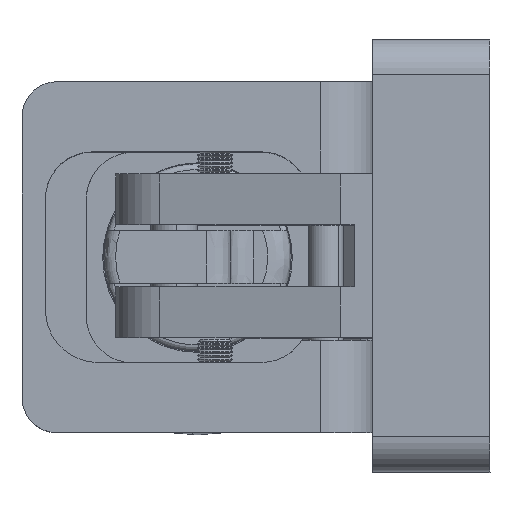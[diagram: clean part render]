
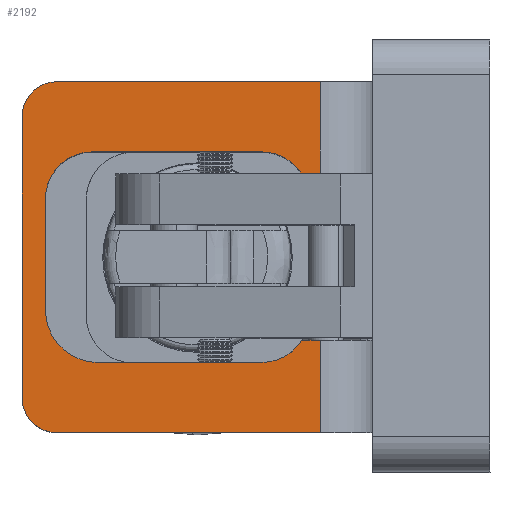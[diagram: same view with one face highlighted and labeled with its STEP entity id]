
A CAD part, top view. The second image highlights one B-rep face of the part: STEP entity #2192.
In plain terms, the highlighted planar face has unit normal (0, 0, 1).
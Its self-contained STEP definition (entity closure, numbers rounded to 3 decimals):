
#65 = ORIENTED_EDGE ( 'NONE', *, *, #23069, .T. ) ;
#523 = VECTOR ( 'NONE', #21597, 1000. ) ;
#676 = EDGE_CURVE ( 'NONE', #4200, #5208, #1761, .T. ) ;
#713 = LINE ( 'NONE', #19948, #15353 ) ;
#833 = DIRECTION ( 'NONE',  ( 0., 0., -1. ) ) ;
#934 = DIRECTION ( 'NONE',  ( 1., 0., 0. ) ) ;
#1141 = CARTESIAN_POINT ( 'NONE',  ( -18.505, 11.9, -10. ) ) ;
#1559 = VERTEX_POINT ( 'NONE', #14750 ) ;
#1655 = VECTOR ( 'NONE', #3254, 1000. ) ;
#1761 = CIRCLE ( 'NONE', #12846, 4.5 ) ;
#2192 = ADVANCED_FACE ( 'NONE', ( #6157 ), #5444, .T. ) ;
#3053 = DIRECTION ( 'NONE',  ( 1., 0., 0. ) ) ;
#3190 = EDGE_CURVE ( 'NONE', #1559, #5051, #18392, .T. ) ;
#3254 = DIRECTION ( 'NONE',  ( 1., 0., 0. ) ) ;
#3273 = CARTESIAN_POINT ( 'NONE',  ( -18.505, -15.1, -10. ) ) ;
#3554 = EDGE_CURVE ( 'NONE', #6457, #21720, #22567, .T. ) ;
#3771 = EDGE_CURVE ( 'NONE', #20654, #5051, #8808, .T. ) ;
#4049 = EDGE_CURVE ( 'NONE', #14535, #10686, #15959, .T. ) ;
#4200 = VERTEX_POINT ( 'NONE', #12594 ) ;
#4212 = ORIENTED_EDGE ( 'NONE', *, *, #16198, .T. ) ;
#4225 = DIRECTION ( 'NONE',  ( 0., 1., 0. ) ) ;
#4561 = CARTESIAN_POINT ( 'NONE',  ( -7.005, 8.9, -10. ) ) ;
#5051 = VERTEX_POINT ( 'NONE', #19350 ) ;
#5154 = EDGE_CURVE ( 'NONE', #14821, #10686, #22018, .T. ) ;
#5208 = VERTEX_POINT ( 'NONE', #10247 ) ;
#5290 = ORIENTED_EDGE ( 'NONE', *, *, #6874, .T. ) ;
#5430 = VERTEX_POINT ( 'NONE', #3273 ) ;
#5444 = PLANE ( 'NONE',  #16141 ) ;
#5789 = VECTOR ( 'NONE', #934, 1000. ) ;
#5979 = DIRECTION ( 'NONE',  ( 0., 0., 1. ) ) ;
#6100 = LINE ( 'NONE', #14679, #1655 ) ;
#6157 = FACE_OUTER_BOUND ( 'NONE', #22961, .T. ) ;
#6164 = DIRECTION ( 'NONE',  ( 0., 0., -1. ) ) ;
#6269 = ORIENTED_EDGE ( 'NONE', *, *, #3771, .T. ) ;
#6273 = DIRECTION ( 'NONE',  ( 1., 0., 0. ) ) ;
#6457 = VERTEX_POINT ( 'NONE', #23403 ) ;
#6558 = AXIS2_PLACEMENT_3D ( 'NONE', #9411, #22770, #11312 ) ;
#6579 = DIRECTION ( 'NONE',  ( 0., 1., 0. ) ) ;
#6697 = LINE ( 'NONE', #4561, #21348 ) ;
#6711 = CARTESIAN_POINT ( 'NONE',  ( 3.995, 5.4, -10. ) ) ;
#6874 = EDGE_CURVE ( 'NONE', #4200, #21720, #11492, .T. ) ;
#6937 = DIRECTION ( 'NONE',  ( 0., 0., 1. ) ) ;
#6941 = ORIENTED_EDGE ( 'NONE', *, *, #15247, .T. ) ;
#7009 = ORIENTED_EDGE ( 'NONE', *, *, #5154, .F. ) ;
#7343 = CARTESIAN_POINT ( 'NONE',  ( -14.505, 5.4, -10. ) ) ;
#7516 = ORIENTED_EDGE ( 'NONE', *, *, #17877, .F. ) ;
#7675 = DIRECTION ( 'NONE',  ( 0., 1., 0. ) ) ;
#8300 = CARTESIAN_POINT ( 'NONE',  ( -7.005, 14.9, -10. ) ) ;
#8588 = CARTESIAN_POINT ( 'NONE',  ( 2.4, 7., -10. ) ) ;
#8639 = DIRECTION ( 'NONE',  ( 0., 1., 0. ) ) ;
#8808 = CIRCLE ( 'NONE', #24517, 3. ) ;
#9133 = EDGE_CURVE ( 'NONE', #22924, #23355, #21915, .T. ) ;
#9340 = CARTESIAN_POINT ( 'NONE',  ( 2.4, -7.2, -10. ) ) ;
#9411 = CARTESIAN_POINT ( 'NONE',  ( -15.505, 4.9, -10. ) ) ;
#9731 = LINE ( 'NONE', #6711, #19291 ) ;
#10208 = DIRECTION ( 'NONE',  ( 1., 0., 0. ) ) ;
#10247 = CARTESIAN_POINT ( 'NONE',  ( -15.005, -9.1, -10. ) ) ;
#10686 = VERTEX_POINT ( 'NONE', #8588 ) ;
#10865 = CARTESIAN_POINT ( 'NONE',  ( -19.505, 5.4, -10. ) ) ;
#11235 = ORIENTED_EDGE ( 'NONE', *, *, #13107, .T. ) ;
#11312 = DIRECTION ( 'NONE',  ( 1., 0., 0. ) ) ;
#11405 = CARTESIAN_POINT ( 'NONE',  ( 3.995, -7.2, -10. ) ) ;
#11419 = CARTESIAN_POINT ( 'NONE',  ( -21.505, -0.1, -10. ) ) ;
#11492 = LINE ( 'NONE', #10865, #15970 ) ;
#12225 = CARTESIAN_POINT ( 'NONE',  ( -1.005, -5.1, -10. ) ) ;
#12520 = CARTESIAN_POINT ( 'NONE',  ( 3.995, 14.9, -10. ) ) ;
#12594 = CARTESIAN_POINT ( 'NONE',  ( -19.505, -4.6, -10. ) ) ;
#12846 = AXIS2_PLACEMENT_3D ( 'NONE', #18394, #6937, #20316 ) ;
#12906 = VERTEX_POINT ( 'NONE', #23150 ) ;
#13103 = EDGE_CURVE ( 'NONE', #5208, #23355, #21018, .T. ) ;
#13107 = EDGE_CURVE ( 'NONE', #12906, #21661, #713, .T. ) ;
#13230 = VECTOR ( 'NONE', #10208, 1000. ) ;
#13320 = VECTOR ( 'NONE', #7675, 1000. ) ;
#13331 = ORIENTED_EDGE ( 'NONE', *, *, #3190, .F. ) ;
#13454 = ORIENTED_EDGE ( 'NONE', *, *, #17879, .F. ) ;
#13509 = CARTESIAN_POINT ( 'NONE',  ( -19.505, 4.9, -10. ) ) ;
#13817 = CIRCLE ( 'NONE', #19023, 3. ) ;
#13828 = LINE ( 'NONE', #8300, #13230 ) ;
#14153 = ORIENTED_EDGE ( 'NONE', *, *, #9133, .T. ) ;
#14179 = DIRECTION ( 'NONE',  ( 1., 0., 0. ) ) ;
#14211 = CARTESIAN_POINT ( 'NONE',  ( -7.005, -9.1, -10. ) ) ;
#14490 = DIRECTION ( 'NONE',  ( 0., 0., 1. ) ) ;
#14535 = VERTEX_POINT ( 'NONE', #18869 ) ;
#14679 = CARTESIAN_POINT ( 'NONE',  ( -14.505, -15.1, -10. ) ) ;
#14750 = CARTESIAN_POINT ( 'NONE',  ( -21.505, -12.1, -10. ) ) ;
#14821 = VERTEX_POINT ( 'NONE', #18265 ) ;
#15005 = CARTESIAN_POINT ( 'NONE',  ( -1.005, -9.1, -10. ) ) ;
#15247 = EDGE_CURVE ( 'NONE', #14821, #17368, #9731, .T. ) ;
#15353 = VECTOR ( 'NONE', #6579, 1000. ) ;
#15924 = CARTESIAN_POINT ( 'NONE',  ( -14.505, 7., -10. ) ) ;
#15959 = CIRCLE ( 'NONE', #21455, 4. ) ;
#15970 = VECTOR ( 'NONE', #4225, 1000. ) ;
#16141 = AXIS2_PLACEMENT_3D ( 'NONE', #7343, #16860, #22648 ) ;
#16162 = EDGE_CURVE ( 'NONE', #14535, #6457, #6697, .T. ) ;
#16198 = EDGE_CURVE ( 'NONE', #5430, #12906, #6100, .T. ) ;
#16494 = CARTESIAN_POINT ( 'NONE',  ( -18.505, 14.9, -10. ) ) ;
#16860 = DIRECTION ( 'NONE',  ( 0., 0., 1. ) ) ;
#16935 = ORIENTED_EDGE ( 'NONE', *, *, #4049, .T. ) ;
#17368 = VERTEX_POINT ( 'NONE', #12520 ) ;
#17395 = CARTESIAN_POINT ( 'NONE',  ( -18.505, -12.1, -10. ) ) ;
#17594 = CARTESIAN_POINT ( 'NONE',  ( -1.005, 4.9, -10. ) ) ;
#17877 = EDGE_CURVE ( 'NONE', #22924, #21661, #19483, .T. ) ;
#17879 = EDGE_CURVE ( 'NONE', #20654, #17368, #13828, .T. ) ;
#18071 = DIRECTION ( 'NONE',  ( -1., 0., 0. ) ) ;
#18088 = ORIENTED_EDGE ( 'NONE', *, *, #676, .F. ) ;
#18265 = CARTESIAN_POINT ( 'NONE',  ( 3.995, 7., -10. ) ) ;
#18392 = LINE ( 'NONE', #11419, #13320 ) ;
#18394 = CARTESIAN_POINT ( 'NONE',  ( -15.005, -4.6, -10. ) ) ;
#18833 = ORIENTED_EDGE ( 'NONE', *, *, #13103, .F. ) ;
#18869 = CARTESIAN_POINT ( 'NONE',  ( -1.005, 8.9, -10. ) ) ;
#19023 = AXIS2_PLACEMENT_3D ( 'NONE', #17395, #5979, #19340 ) ;
#19291 = VECTOR ( 'NONE', #8639, 1000. ) ;
#19340 = DIRECTION ( 'NONE',  ( 1., 0., 0. ) ) ;
#19350 = CARTESIAN_POINT ( 'NONE',  ( -21.505, 11.9, -10. ) ) ;
#19483 = LINE ( 'NONE', #19643, #24008 ) ;
#19510 = DIRECTION ( 'NONE',  ( 1., 0., 0. ) ) ;
#19643 = CARTESIAN_POINT ( 'NONE',  ( -7.005, -7.2, -10. ) ) ;
#19948 = CARTESIAN_POINT ( 'NONE',  ( 3.995, 5.4, -10. ) ) ;
#20316 = DIRECTION ( 'NONE',  ( 1., 0., 0. ) ) ;
#20639 = ORIENTED_EDGE ( 'NONE', *, *, #3554, .F. ) ;
#20654 = VERTEX_POINT ( 'NONE', #16494 ) ;
#21018 = LINE ( 'NONE', #14211, #5789 ) ;
#21146 = AXIS2_PLACEMENT_3D ( 'NONE', #12225, #833, #14179 ) ;
#21348 = VECTOR ( 'NONE', #18071, 1000. ) ;
#21455 = AXIS2_PLACEMENT_3D ( 'NONE', #17594, #6164, #19510 ) ;
#21597 = DIRECTION ( 'NONE',  ( -1., 0., 0. ) ) ;
#21661 = VERTEX_POINT ( 'NONE', #11405 ) ;
#21720 = VERTEX_POINT ( 'NONE', #13509 ) ;
#21915 = CIRCLE ( 'NONE', #21146, 4. ) ;
#22018 = LINE ( 'NONE', #15924, #523 ) ;
#22567 = CIRCLE ( 'NONE', #6558, 4. ) ;
#22648 = DIRECTION ( 'NONE',  ( 1., 0., 0. ) ) ;
#22770 = DIRECTION ( 'NONE',  ( 0., 0., 1. ) ) ;
#22924 = VERTEX_POINT ( 'NONE', #9340 ) ;
#22961 = EDGE_LOOP ( 'NONE', ( #4212, #11235, #7516, #14153, #18833, #18088, #5290, #20639, #24156, #16935, #7009, #6941, #13454, #6269, #13331, #65 ) ) ;
#23069 = EDGE_CURVE ( 'NONE', #1559, #5430, #13817, .T. ) ;
#23150 = CARTESIAN_POINT ( 'NONE',  ( 3.995, -15.1, -10. ) ) ;
#23355 = VERTEX_POINT ( 'NONE', #15005 ) ;
#23403 = CARTESIAN_POINT ( 'NONE',  ( -15.505, 8.9, -10. ) ) ;
#24008 = VECTOR ( 'NONE', #6273, 1000. ) ;
#24156 = ORIENTED_EDGE ( 'NONE', *, *, #16162, .F. ) ;
#24517 = AXIS2_PLACEMENT_3D ( 'NONE', #1141, #14490, #3053 ) ;
